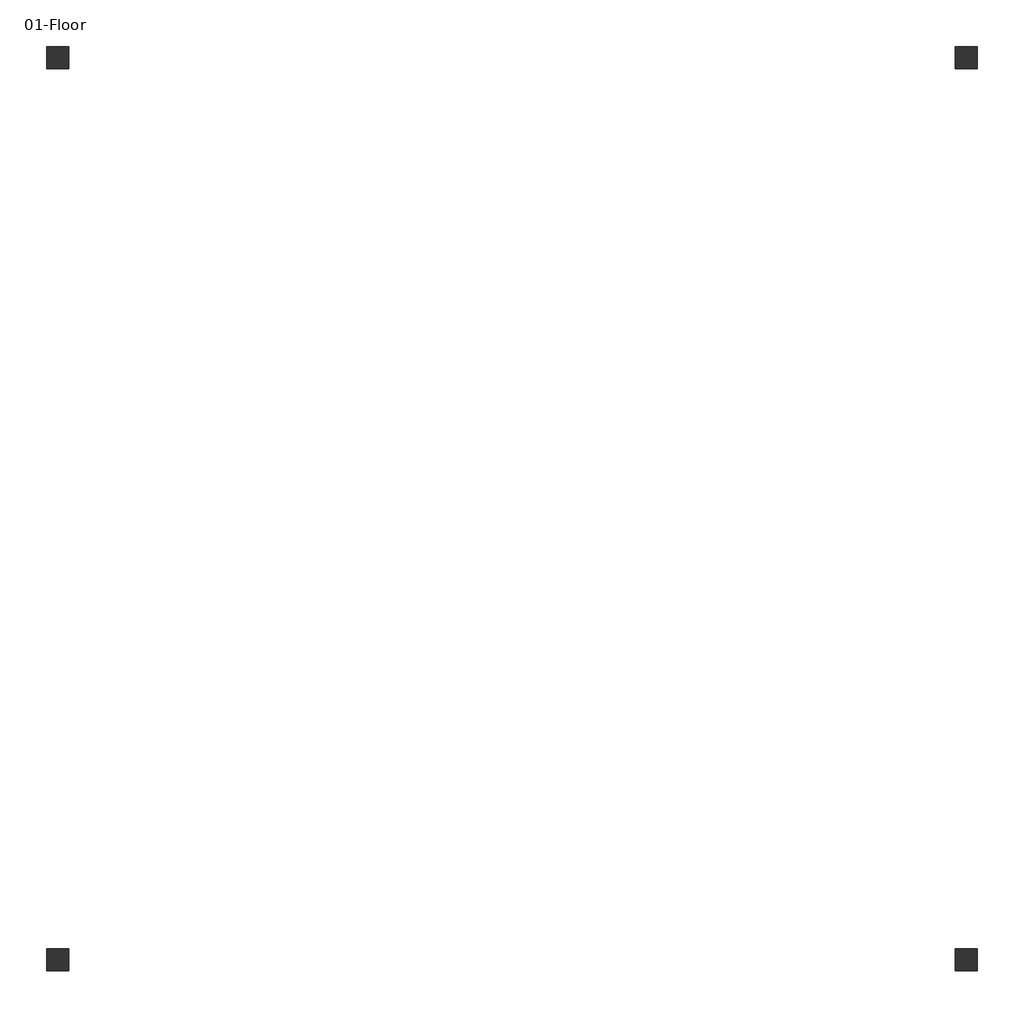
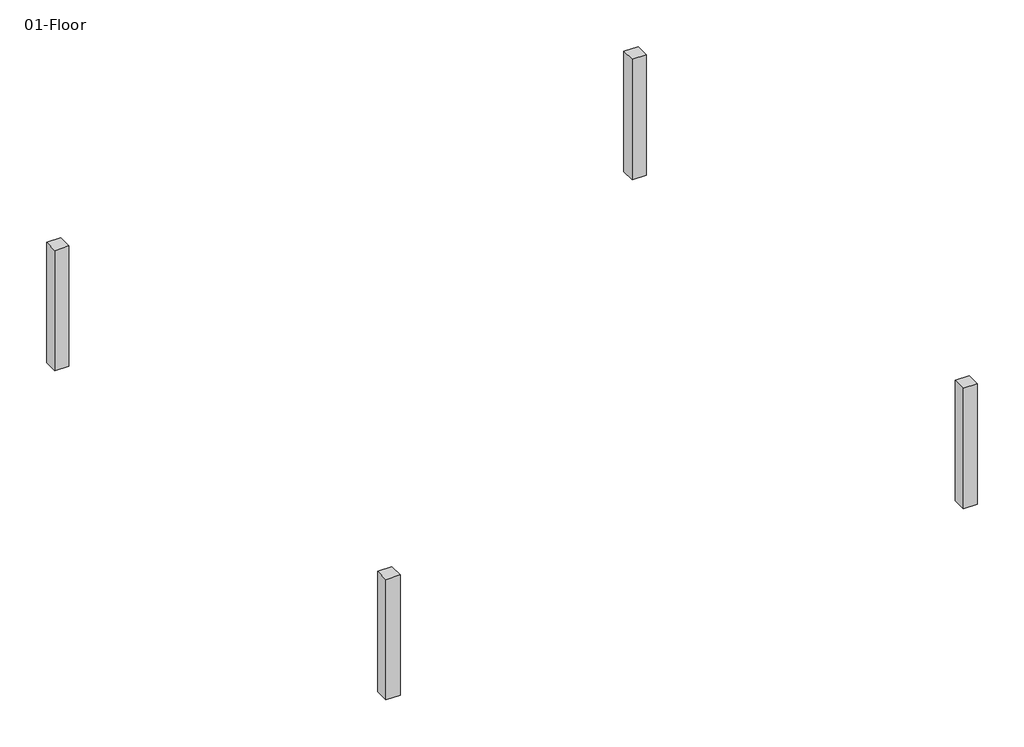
# One storey: 4 columns.
"""IFC4 building model written with IfcOpenShell, lengths in millimetres."""

from ifc_helpers import new_model, si_unit, origin, origin_with_axes, place, context, project, spatial, polyline, outline, extrude, element, save

model = new_model("IFC4")

# Units and contexts
model_context = context("Model", 3, world=origin())
ifc_project = project(units=[si_unit("LENGTHUNIT", "METRE", prefix="MILLI")], contexts=[model_context])

# Site, building, storey
site = spatial("IfcSite", under=ifc_project)
building = spatial("IfcBuilding", under=site)
storey = spatial("IfcBuildingStorey", under=building, Name="01-Floor", Elevation=0.0)

# Columns
placement = place(None, origin())
element("IfcColumn", 1, ObjectType="Concrete-Rectangular-Column : 12 x 12", at=placement, inside=storey, context=model_context, shape_type="SweptSolid", body=[
    extrude(outline(polyline([(-22484.7920692, 11434.1050815), (-22484.7920692, 11129.3050815), (-22789.5920692, 11129.3050815), (-22789.5920692, 11434.1050815), (-22484.7920692, 11434.1050815)])), origin_with_axes(), (0.0, 0.0, 1.0), 2743.2),
])
element("IfcColumn", 2, ObjectType="Concrete-Rectangular-Column : 12 x 12", at=placement, inside=storey, context=model_context, shape_type="SweptSolid", body=[
    extrude(outline(polyline([(-22484.7920692, -925.735408), (-22484.7920692, -1230.535408), (-22789.5920692, -1230.535408), (-22789.5920692, -925.735408), (-22484.7920692, -925.735408)])), origin_with_axes(), (0.0, 0.0, 1.0), 2743.2),
])
element("IfcColumn", 3, ObjectType="Concrete-Rectangular-Column : 12 x 12", at=placement, inside=storey, context=model_context, shape_type="SweptSolid", body=[
    extrude(outline(polyline([(-10043.0983314, 11434.1050815), (-10043.0983314, 11129.3050815), (-10347.8983314, 11129.3050815), (-10347.8983314, 11434.1050815), (-10043.0983314, 11434.1050815)])), origin_with_axes(), (0.0, 0.0, 1.0), 2743.2),
])
element("IfcColumn", 4, ObjectType="Concrete-Rectangular-Column : 12 x 12", at=placement, inside=storey, context=model_context, shape_type="SweptSolid", body=[
    extrude(outline(polyline([(-10043.0983314, -925.735408), (-10043.0983314, -1230.535408), (-10347.8983314, -1230.535408), (-10347.8983314, -925.735408), (-10043.0983314, -925.735408)])), origin_with_axes(), (0.0, 0.0, 1.0), 2743.2),
])

save(model, "model.ifc")
